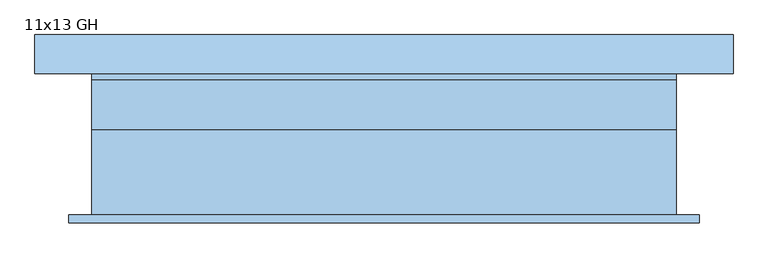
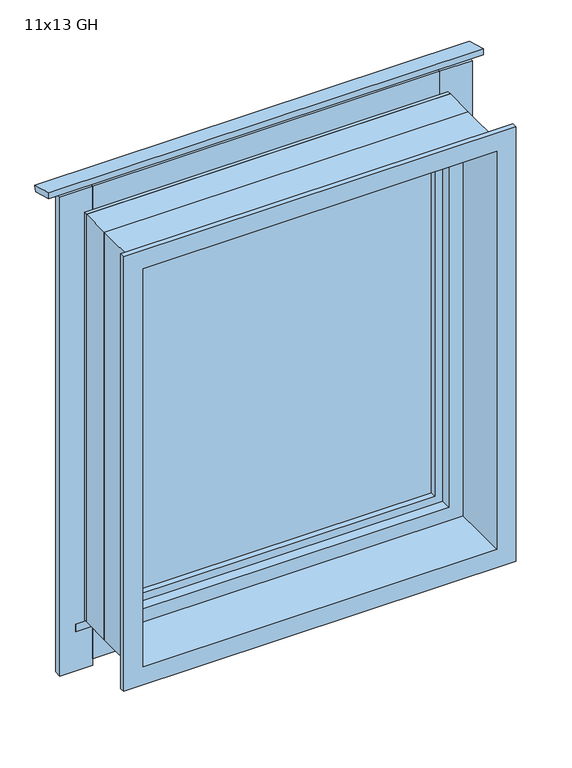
"""IFC4 building model written with IfcOpenShell, lengths in millimetres: window geometry, Vindu GH : 11x13 GH."""

from ifc_helpers import new_model, si_unit, frame, origin, place, context, project, spatial, polyline, outline, extrude, faceted_brep, source, transform, mapped, element, save


def window_11x13_gh_121f46ad(model_context):
    return source(origin(), model_context, "Body", "SolidModel", [
        extrude(outline(polyline([(204.444437, 2259.1537013), (199.5268751, 2240.8011106), (132.0, 2258.8948822), (132.0, 2278.5651297), (204.444437, 2259.1537013)])), frame((-651.0, 0.0, 0.0), z_axis=(1.0, 0.0, 0.0), x_axis=(0.0, 1.0, 0.0)), (0.0, 0.0, 1.0), 1302.0),
        extrude(outline(polyline([(180.2962913, 870.6791642), (174.6022723, 849.4287961), (132.0, 860.8440405), (132.0, 883.6201165), (180.2962913, 870.6791642)])), frame((-571.0, 0.0, 0.0), z_axis=(1.0, 0.0, 0.0), x_axis=(0.0, 1.0, 0.0)), (0.0, 0.0, 1.0), 1142.0),
        extrude(outline(polyline([(-520.0, 132.0), (-520.0, 154.0), (520.0, 154.0), (520.0, 132.0), (-520.0, 132.0)])), frame((0.0, 0.0, 757.0051732), z_axis=(0.0, 0.0, 1.0), x_axis=(1.0, 0.0, 0.0)), (0.0, 0.0, 1.0), 98.0),
        extrude(outline(polyline([(-520.0, 132.0), (-520.0, 154.0), (520.0, 154.0), (520.0, 132.0), (-520.0, 132.0)])), frame((0.0, 0.0, 2155.0), z_axis=(0.0, 0.0, 1.0), x_axis=(1.0, 0.0, 0.0)), (0.0, 0.0, 1.0), 98.0),
        extrude(outline(polyline([(618.0, 132.0), (520.0, 132.0), (520.0, 154.0), (618.0, 154.0), (618.0, 132.0)])), frame((0.0, 0.0, 737.0), z_axis=(0.0, 0.0, 1.0), x_axis=(1.0, 0.0, 0.0)), (0.0, 0.0, 1.0), 1516.0),
        extrude(outline(polyline([(-520.0, 132.0), (-618.0, 132.0), (-618.0, 154.0), (-520.0, 154.0), (-520.0, 132.0)])), frame((0.0, 0.0, 737.0), z_axis=(0.0, 0.0, 1.0), x_axis=(1.0, 0.0, 0.0)), (0.0, 0.0, 1.0), 1516.0),
        extrude(outline(polyline([(-464.0, 102.0), (464.0, 102.0), (464.0, 78.0), (-464.0, 78.0), (-464.0, 102.0)])), frame((0.0, 0.0, 971.0), z_axis=(0.0, 0.0, 1.0), x_axis=(1.0, 0.0, 0.0)), (0.0, 0.0, 1.0), 1128.0),
        extrude(outline(polyline([(929.0, -506.0), (929.0, 506.0), (2141.0, 506.0), (2141.0, -506.0), (929.0, -506.0)]), holes=[polyline([(2099.0, -464.0), (2099.0, 464.0), (971.0, 464.0), (971.0, -464.0), (2099.0, -464.0)])]), frame((0.0, 60.0, 0.0), z_axis=(0.0, 1.0, 0.0), x_axis=(0.0, 0.0, 1.0)), (0.0, 0.0, 1.0), 60.0),
        faceted_brep([(-545.0, 120.0, 890.0), (-545.0, 28.0, 890.0), (-545.0, 28.0, 2180.0), (-545.0, 120.0, 2180.0), (-506.0, 60.0, 929.0), (-506.0, 120.0, 929.0), (-506.0, 120.0, 2141.0), (-506.0, 60.0, 2141.0), (-488.0, 28.0, 947.0), (-488.0, 60.0, 947.0), (-488.0, 60.0, 2123.0), (-488.0, 28.0, 2123.0), (545.0, 28.0, 2180.0), (545.0, 120.0, 2180.0), (506.0, 120.0, 2141.0), (506.0, 60.0, 2141.0), (488.0, 60.0, 2123.0), (488.0, 28.0, 2123.0), (545.0, 28.0, 890.0), (545.0, 120.0, 890.0), (506.0, 120.0, 929.0), (506.0, 60.0, 929.0), (488.0, 60.0, 947.0), (488.0, 28.0, 947.0)], [[[0, 1, 2, 3]], [[4, 5, 6, 7]], [[8, 9, 10, 11]], [[3, 2, 12, 13]], [[7, 6, 14, 15]], [[11, 10, 16, 17]], [[13, 12, 18, 19]], [[15, 14, 20, 21]], [[17, 16, 22, 23]], [[19, 18, 1, 0]], [[3, 13, 19, 0], [5, 20, 14, 6]], [[21, 20, 5, 4]], [[7, 15, 21, 4], [9, 22, 16, 10]], [[23, 22, 9, 8]], [[1, 18, 12, 2], [11, 17, 23, 8]]]),
        extrude(outline(polyline([(890.0, 520.0), (890.0, 545.0), (2180.0, 545.0), (2180.0, -545.0), (890.0, -545.0), (890.0, -520.0), (2155.0, -520.0), (2155.0, 520.0), (890.0, 520.0)])), frame((0.0, 120.0, 0.0), z_axis=(0.0, 1.0, 0.0), x_axis=(0.0, 0.0, 1.0)), (0.0, 0.0, 1.0), 12.0),
        faceted_brep([(-545.0, -132.0, 890.0), (-545.0, 28.0, 890.0), (545.0, 28.0, 890.0), (545.0, -132.0, 890.0), (545.0, 28.0, 2180.0), (545.0, -132.0, 2180.0), (-545.0, 28.0, 2180.0), (530.0, 28.0, 2165.0), (-530.0, 28.0, 2165.0), (-530.0, 28.0, 905.0), (530.0, 28.0, 905.0), (588.0, -132.0, 847.0), (-588.0, -132.0, 847.0), (-588.0, -132.0, 2223.0), (588.0, -132.0, 2223.0), (-545.0, -132.0, 2180.0), (-588.0, -147.0, 847.0), (588.0, -147.0, 847.0), (588.0, -147.0, 2223.0), (-588.0, -147.0, 2223.0), (530.0, -147.0, 905.0), (-530.0, -147.0, 905.0), (-530.0, -147.0, 2165.0), (530.0, -147.0, 2165.0)], [[[0, 1, 2, 3]], [[3, 2, 4, 5]], [[2, 1, 6, 4], [7, 8, 9, 10]], [[11, 12, 13, 14], [5, 15, 0, 3]], [[16, 12, 11, 17]], [[17, 11, 14, 18]], [[18, 19, 16, 17], [20, 21, 22, 23]], [[9, 21, 20, 10]], [[10, 20, 23, 7]], [[15, 6, 1, 0]], [[19, 13, 12, 16]], [[8, 22, 21, 9]], [[5, 4, 6, 15]], [[18, 14, 13, 19]], [[7, 23, 22, 8]]]),
    ])


if __name__ == "__main__":
    model = new_model("IFC4")
    model_context = context("Model", 3, world=origin())
    ifc_project = project(units=[si_unit("LENGTHUNIT", "METRE", prefix="MILLI")], contexts=[model_context])
    site = spatial("IfcSite", under=ifc_project)
    building = spatial("IfcBuilding", under=site)
    placement = place(None, origin())
    window_11x13_gh_shape = window_11x13_gh_121f46ad(model_context)
    element("IfcWindow", 1, ObjectType="Vindu GH : 11x13 GH", at=placement, inside=building, context=model_context, shape_type="MappedRepresentation", body=[
        mapped(window_11x13_gh_shape, transform((0.0, 0.0, 0.0), x_axis=(1.0, 0.0, 0.0), y_axis=(0.0, 1.0, 0.0), z_axis=(0.0, 0.0, 1.0))),
    ])
    save(model, "model.ifc")
